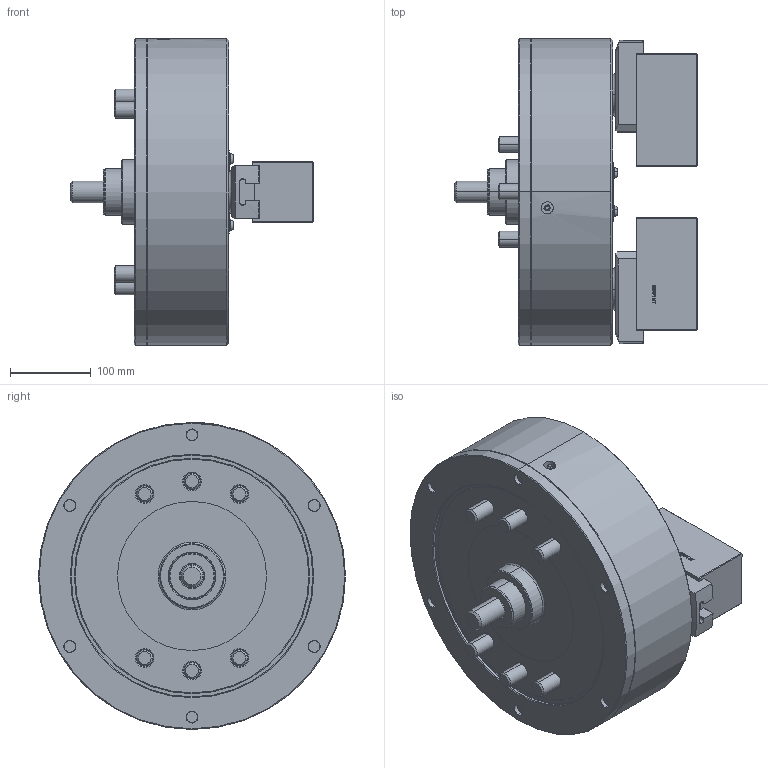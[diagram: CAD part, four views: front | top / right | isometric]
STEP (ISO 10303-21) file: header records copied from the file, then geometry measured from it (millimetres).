
FILE_DESCRIPTION (( 'STEP AP214' ), '1' );
FILE_NAME ('PWT15_CL_OD.STEP', '2019-10-23T01:29:18', ( '' ), ( '' ), 'SwSTEP 2.0', 'SolidWorks 2017', '' );
FILE_SCHEMA (( 'AUTOMOTIVE_DESIGN' ));
Length unit declared in the file: millimetre
Products named in the file (5): 61P422878; 61P334597; PWT15_CL_OD; 結合_OD; 0030120030
Assembly tree (9 placements, depth 2):
  PWT15_CL_OD
    61P334597  x2
    61P422878  x2
    0030120030  x4
    結合_OD
Bounding box: 302 x 381 x 381 mm (x, y, z)
Volume: 14914705.6 mm3; surface area: 763228.6 mm2
Topology: 9 solids, 10 shells, 1641 faces, 4017 edges, 2516 vertices
Faces by surface type: plane 873, cone 269, cylinder 234, bspline 209, torus 52, sphere 4
Entity records: 46994 total; most frequent: CARTESIAN_POINT 15618, ORIENTED_EDGE 6678, DIRECTION 5954, EDGE_CURVE 3339, VERTEX_POINT 2103, AXIS2_PLACEMENT_3D 1987, VECTOR 1980, LINE 1980
